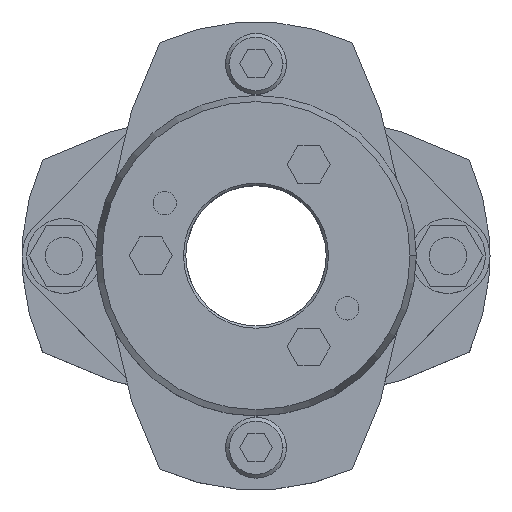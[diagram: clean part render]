
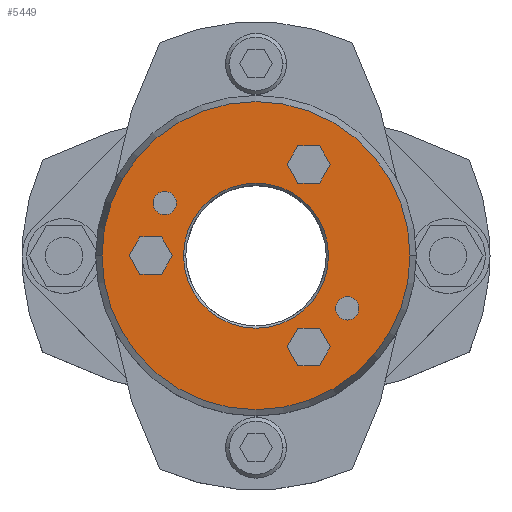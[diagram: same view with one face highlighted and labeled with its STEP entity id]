
A CAD part, top view. The second image highlights one B-rep face of the part: STEP entity #5449.
In plain terms, the highlighted planar face has unit normal (0, 0, 1).
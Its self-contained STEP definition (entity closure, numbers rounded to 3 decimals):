
#857=CARTESIAN_POINT('',(-15.5,0.,42.0));
#858=VERTEX_POINT('',#857);
#874=CARTESIAN_POINT('',(15.5,0.,42.0));
#875=VERTEX_POINT('',#874);
#882=CARTESIAN_POINT('',(0.,0.,42.0));
#883=DIRECTION('',(0.0,0.0,1.0));
#884=DIRECTION('',(-1.0,0.0,0.0));
#885=AXIS2_PLACEMENT_3D('',#882,#883,#884);
#886=CIRCLE('',#885,15.5);
#887=EDGE_CURVE('',#875,#858,#886,.T.);
#1045=CARTESIAN_POINT('',(32.91,0.,42.0));
#1046=VERTEX_POINT('',#1045);
#1053=CARTESIAN_POINT('',(-32.91,0.,42.0));
#1054=VERTEX_POINT('',#1053);
#1055=CARTESIAN_POINT('',(0.,0.,42.0));
#1056=DIRECTION('',(0.0,0.0,-1.0));
#1057=DIRECTION('',(1.0,0.0,0.0));
#1058=AXIS2_PLACEMENT_3D('',#1055,#1056,#1057);
#1059=CIRCLE('',#1058,32.91);
#1060=EDGE_CURVE('',#1046,#1054,#1059,.T.);
#1155=CARTESIAN_POINT('',(16.986,-11.25,42.0));
#1156=VERTEX_POINT('',#1155);
#1172=CARTESIAN_POINT('',(21.986,-11.25,42.0));
#1173=VERTEX_POINT('',#1172);
#1180=CARTESIAN_POINT('',(19.486,-11.25,42.0));
#1181=DIRECTION('',(0.0,0.0,-1.0));
#1182=DIRECTION('',(-1.0,0.0,0.0));
#1183=AXIS2_PLACEMENT_3D('',#1180,#1181,#1182);
#1184=CIRCLE('',#1183,2.5);
#1185=EDGE_CURVE('',#1156,#1173,#1184,.T.);
#1197=CARTESIAN_POINT('',(-21.986,11.25,42.0));
#1198=VERTEX_POINT('',#1197);
#1214=CARTESIAN_POINT('',(-16.986,11.25,42.0));
#1215=VERTEX_POINT('',#1214);
#1222=CARTESIAN_POINT('',(-19.486,11.25,42.0));
#1223=DIRECTION('',(0.0,0.0,-1.0));
#1224=DIRECTION('',(-1.0,0.0,0.0));
#1225=AXIS2_PLACEMENT_3D('',#1222,#1223,#1224);
#1226=CIRCLE('',#1225,2.5);
#1227=EDGE_CURVE('',#1198,#1215,#1226,.T.);
#4476=CARTESIAN_POINT('',(-19.486,11.25,42.0));
#4477=DIRECTION('',(0.0,0.0,-1.0));
#4478=DIRECTION('',(-1.0,0.0,0.0));
#4479=AXIS2_PLACEMENT_3D('',#4476,#4477,#4478);
#4480=CIRCLE('',#4479,2.5);
#4481=EDGE_CURVE('',#1215,#1198,#4480,.T.);
#4510=CARTESIAN_POINT('',(19.486,-11.25,42.0));
#4511=DIRECTION('',(0.0,0.0,-1.0));
#4512=DIRECTION('',(-1.0,0.0,0.0));
#4513=AXIS2_PLACEMENT_3D('',#4510,#4511,#4512);
#4514=CIRCLE('',#4513,2.5);
#4515=EDGE_CURVE('',#1173,#1156,#4514,.T.);
#4553=CARTESIAN_POINT('',(-27.119,0.,42.0));
#4554=VERTEX_POINT('',#4553);
#4561=CARTESIAN_POINT('',(-24.809,-4.,42.0));
#4562=VERTEX_POINT('',#4561);
#4563=CARTESIAN_POINT('',(-24.809,-4.,42.0));
#4564=DIRECTION('',(-0.5,0.866,0.0));
#4565=VECTOR('',#4564,4.619);
#4566=LINE('',#4563,#4565);
#4567=EDGE_CURVE('',#4562,#4554,#4566,.T.);
#4591=CARTESIAN_POINT('',(-24.809,4.,42.0));
#4592=VERTEX_POINT('',#4591);
#4599=CARTESIAN_POINT('',(-27.119,0.,42.0));
#4600=DIRECTION('',(0.5,0.866,0.0));
#4601=VECTOR('',#4600,4.619);
#4602=LINE('',#4599,#4601);
#4603=EDGE_CURVE('',#4554,#4592,#4602,.T.);
#4622=CARTESIAN_POINT('',(-20.191,4.,42.0));
#4623=VERTEX_POINT('',#4622);
#4630=CARTESIAN_POINT('',(-24.809,4.,42.0));
#4631=DIRECTION('',(1.0,0.0,0.0));
#4632=VECTOR('',#4631,4.619);
#4633=LINE('',#4630,#4632);
#4634=EDGE_CURVE('',#4592,#4623,#4633,.T.);
#4653=CARTESIAN_POINT('',(-17.881,0.,42.0));
#4654=VERTEX_POINT('',#4653);
#4661=CARTESIAN_POINT('',(-20.191,4.,42.0));
#4662=DIRECTION('',(0.5,-0.866,0.0));
#4663=VECTOR('',#4662,4.619);
#4664=LINE('',#4661,#4663);
#4665=EDGE_CURVE('',#4623,#4654,#4664,.T.);
#4684=CARTESIAN_POINT('',(-20.191,-4.,42.0));
#4685=VERTEX_POINT('',#4684);
#4692=CARTESIAN_POINT('',(-17.881,0.,42.0));
#4693=DIRECTION('',(-0.5,-0.866,0.0));
#4694=VECTOR('',#4693,4.619);
#4695=LINE('',#4692,#4694);
#4696=EDGE_CURVE('',#4654,#4685,#4695,.T.);
#4714=CARTESIAN_POINT('',(-20.191,-4.,42.0));
#4715=DIRECTION('',(-1.0,0.0,0.0));
#4716=VECTOR('',#4715,4.619);
#4717=LINE('',#4714,#4716);
#4718=EDGE_CURVE('',#4685,#4562,#4717,.T.);
#4753=CARTESIAN_POINT('',(6.631,19.486,42.0));
#4754=VERTEX_POINT('',#4753);
#4761=CARTESIAN_POINT('',(8.941,15.486,42.0));
#4762=VERTEX_POINT('',#4761);
#4763=CARTESIAN_POINT('',(8.941,15.486,42.0));
#4764=DIRECTION('',(-0.5,0.866,0.0));
#4765=VECTOR('',#4764,4.619);
#4766=LINE('',#4763,#4765);
#4767=EDGE_CURVE('',#4762,#4754,#4766,.T.);
#4791=CARTESIAN_POINT('',(8.941,23.486,42.0));
#4792=VERTEX_POINT('',#4791);
#4799=CARTESIAN_POINT('',(6.631,19.486,42.0));
#4800=DIRECTION('',(0.5,0.866,0.0));
#4801=VECTOR('',#4800,4.619);
#4802=LINE('',#4799,#4801);
#4803=EDGE_CURVE('',#4754,#4792,#4802,.T.);
#4822=CARTESIAN_POINT('',(13.559,23.486,42.0));
#4823=VERTEX_POINT('',#4822);
#4830=CARTESIAN_POINT('',(8.941,23.486,42.0));
#4831=DIRECTION('',(1.0,0.0,0.0));
#4832=VECTOR('',#4831,4.619);
#4833=LINE('',#4830,#4832);
#4834=EDGE_CURVE('',#4792,#4823,#4833,.T.);
#4853=CARTESIAN_POINT('',(15.869,19.486,42.0));
#4854=VERTEX_POINT('',#4853);
#4861=CARTESIAN_POINT('',(13.559,23.486,42.0));
#4862=DIRECTION('',(0.5,-0.866,0.0));
#4863=VECTOR('',#4862,4.619);
#4864=LINE('',#4861,#4863);
#4865=EDGE_CURVE('',#4823,#4854,#4864,.T.);
#4884=CARTESIAN_POINT('',(13.559,15.486,42.0));
#4885=VERTEX_POINT('',#4884);
#4892=CARTESIAN_POINT('',(15.869,19.486,42.0));
#4893=DIRECTION('',(-0.5,-0.866,0.0));
#4894=VECTOR('',#4893,4.619);
#4895=LINE('',#4892,#4894);
#4896=EDGE_CURVE('',#4854,#4885,#4895,.T.);
#4914=CARTESIAN_POINT('',(13.559,15.486,42.0));
#4915=DIRECTION('',(-1.0,0.0,0.0));
#4916=VECTOR('',#4915,4.619);
#4917=LINE('',#4914,#4916);
#4918=EDGE_CURVE('',#4885,#4762,#4917,.T.);
#4953=CARTESIAN_POINT('',(6.631,-19.486,42.0));
#4954=VERTEX_POINT('',#4953);
#4961=CARTESIAN_POINT('',(8.941,-23.486,42.0));
#4962=VERTEX_POINT('',#4961);
#4963=CARTESIAN_POINT('',(8.941,-23.486,42.0));
#4964=DIRECTION('',(-0.5,0.866,0.0));
#4965=VECTOR('',#4964,4.619);
#4966=LINE('',#4963,#4965);
#4967=EDGE_CURVE('',#4962,#4954,#4966,.T.);
#4991=CARTESIAN_POINT('',(8.941,-15.486,42.0));
#4992=VERTEX_POINT('',#4991);
#4999=CARTESIAN_POINT('',(6.631,-19.486,42.0));
#5000=DIRECTION('',(0.5,0.866,0.0));
#5001=VECTOR('',#5000,4.619);
#5002=LINE('',#4999,#5001);
#5003=EDGE_CURVE('',#4954,#4992,#5002,.T.);
#5022=CARTESIAN_POINT('',(13.559,-15.486,42.0));
#5023=VERTEX_POINT('',#5022);
#5030=CARTESIAN_POINT('',(8.941,-15.486,42.0));
#5031=DIRECTION('',(1.0,0.0,0.0));
#5032=VECTOR('',#5031,4.619);
#5033=LINE('',#5030,#5032);
#5034=EDGE_CURVE('',#4992,#5023,#5033,.T.);
#5053=CARTESIAN_POINT('',(15.869,-19.486,42.0));
#5054=VERTEX_POINT('',#5053);
#5061=CARTESIAN_POINT('',(13.559,-15.486,42.0));
#5062=DIRECTION('',(0.5,-0.866,0.0));
#5063=VECTOR('',#5062,4.619);
#5064=LINE('',#5061,#5063);
#5065=EDGE_CURVE('',#5023,#5054,#5064,.T.);
#5084=CARTESIAN_POINT('',(13.559,-23.486,42.0));
#5085=VERTEX_POINT('',#5084);
#5092=CARTESIAN_POINT('',(15.869,-19.486,42.0));
#5093=DIRECTION('',(-0.5,-0.866,0.0));
#5094=VECTOR('',#5093,4.619);
#5095=LINE('',#5092,#5094);
#5096=EDGE_CURVE('',#5054,#5085,#5095,.T.);
#5114=CARTESIAN_POINT('',(13.559,-23.486,42.0));
#5115=DIRECTION('',(-1.0,0.0,0.0));
#5116=VECTOR('',#5115,4.619);
#5117=LINE('',#5114,#5116);
#5118=EDGE_CURVE('',#5085,#4962,#5117,.T.);
#5388=CARTESIAN_POINT('',(0.,0.,42.0));
#5389=DIRECTION('',(0.0,0.0,-1.0));
#5390=DIRECTION('',(1.0,0.0,0.0));
#5391=AXIS2_PLACEMENT_3D('',#5388,#5389,#5390);
#5392=CIRCLE('',#5391,32.91);
#5393=EDGE_CURVE('',#1054,#1046,#5392,.T.);
#5398=CARTESIAN_POINT('',(-3.114,0.,42.0));
#5399=DIRECTION('',(0.0,0.0,1.0));
#5400=DIRECTION('',(-1.0,0.0,0.0));
#5401=AXIS2_PLACEMENT_3D('',#5398,#5399,#5400);
#5402=PLANE('',#5401);
#5403=ORIENTED_EDGE('',*,*,#5393,.F.);
#5404=ORIENTED_EDGE('',*,*,#1060,.F.);
#5405=EDGE_LOOP('',(#5403,#5404));
#5406=FACE_OUTER_BOUND('',#5405,.T.);
#5407=ORIENTED_EDGE('',*,*,#1227,.T.);
#5408=ORIENTED_EDGE('',*,*,#4481,.T.);
#5409=EDGE_LOOP('',(#5407,#5408));
#5410=FACE_BOUND('',#5409,.T.);
#5411=ORIENTED_EDGE('',*,*,#1185,.T.);
#5412=ORIENTED_EDGE('',*,*,#4515,.T.);
#5413=EDGE_LOOP('',(#5411,#5412));
#5414=FACE_BOUND('',#5413,.T.);
#5415=ORIENTED_EDGE('',*,*,#4567,.T.);
#5416=ORIENTED_EDGE('',*,*,#4603,.T.);
#5417=ORIENTED_EDGE('',*,*,#4634,.T.);
#5418=ORIENTED_EDGE('',*,*,#4665,.T.);
#5419=ORIENTED_EDGE('',*,*,#4696,.T.);
#5420=ORIENTED_EDGE('',*,*,#4718,.T.);
#5421=EDGE_LOOP('',(#5415,#5416,#5417,#5418,#5419,#5420));
#5422=FACE_BOUND('',#5421,.T.);
#5423=ORIENTED_EDGE('',*,*,#4767,.T.);
#5424=ORIENTED_EDGE('',*,*,#4803,.T.);
#5425=ORIENTED_EDGE('',*,*,#4834,.T.);
#5426=ORIENTED_EDGE('',*,*,#4865,.T.);
#5427=ORIENTED_EDGE('',*,*,#4896,.T.);
#5428=ORIENTED_EDGE('',*,*,#4918,.T.);
#5429=EDGE_LOOP('',(#5423,#5424,#5425,#5426,#5427,#5428));
#5430=FACE_BOUND('',#5429,.T.);
#5431=ORIENTED_EDGE('',*,*,#4967,.T.);
#5432=ORIENTED_EDGE('',*,*,#5003,.T.);
#5433=ORIENTED_EDGE('',*,*,#5034,.T.);
#5434=ORIENTED_EDGE('',*,*,#5065,.T.);
#5435=ORIENTED_EDGE('',*,*,#5096,.T.);
#5436=ORIENTED_EDGE('',*,*,#5118,.T.);
#5437=EDGE_LOOP('',(#5431,#5432,#5433,#5434,#5435,#5436));
#5438=FACE_BOUND('',#5437,.T.);
#5439=ORIENTED_EDGE('',*,*,#887,.F.);
#5440=CARTESIAN_POINT('',(0.,0.,42.0));
#5441=DIRECTION('',(0.0,0.0,1.0));
#5442=DIRECTION('',(-1.0,0.0,0.0));
#5443=AXIS2_PLACEMENT_3D('',#5440,#5441,#5442);
#5444=CIRCLE('',#5443,15.5);
#5445=EDGE_CURVE('',#858,#875,#5444,.T.);
#5446=ORIENTED_EDGE('',*,*,#5445,.F.);
#5447=EDGE_LOOP('',(#5439,#5446));
#5448=FACE_BOUND('',#5447,.T.);
#5449=ADVANCED_FACE('',(#5406,#5410,#5414,#5422,#5430,#5438,#5448),#5402,.T.);
